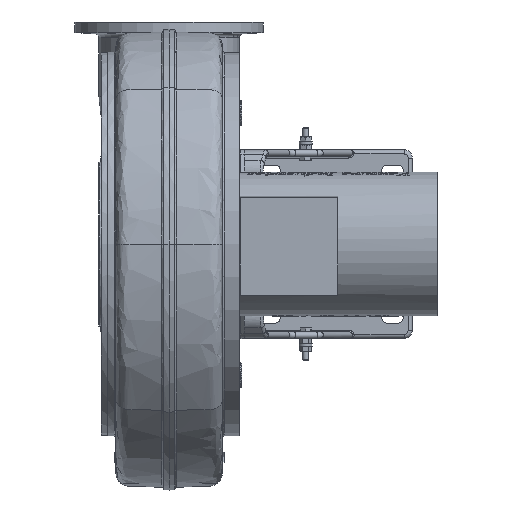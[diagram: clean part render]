
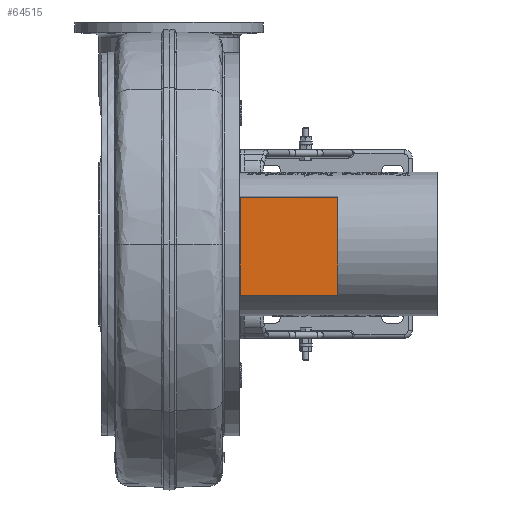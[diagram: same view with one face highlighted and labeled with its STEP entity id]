
A CAD part, front view. The second image highlights one B-rep face of the part: STEP entity #64515.
In plain terms, the highlighted planar face has unit normal (0, -1, -0.016).
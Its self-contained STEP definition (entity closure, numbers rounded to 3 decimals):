
#1501=PLANE('',#67557);
#4998=FACE_OUTER_BOUND('',#8508,.T.);
#8508=EDGE_LOOP('',(#47765,#47766,#47767,#47768));
#14633=LINE('',#106549,#21067);
#14636=LINE('',#106554,#21070);
#14637=LINE('',#106557,#21071);
#14639=LINE('',#106560,#21073);
#21067=VECTOR('',#73683,10.);
#21070=VECTOR('',#73688,10.);
#21071=VECTOR('',#73691,10.);
#21073=VECTOR('',#73695,10.);
#29475=VERTEX_POINT('',#106546);
#29476=VERTEX_POINT('',#106548);
#29477=VERTEX_POINT('',#106552);
#29478=VERTEX_POINT('',#106556);
#36293=EDGE_CURVE('',#29476,#29475,#14633,.T.);
#36296=EDGE_CURVE('',#29475,#29477,#14636,.T.);
#36297=EDGE_CURVE('',#29478,#29476,#14637,.T.);
#36299=EDGE_CURVE('',#29477,#29478,#14639,.T.);
#47765=ORIENTED_EDGE('',*,*,#36299,.T.);
#47766=ORIENTED_EDGE('',*,*,#36297,.T.);
#47767=ORIENTED_EDGE('',*,*,#36293,.T.);
#47768=ORIENTED_EDGE('',*,*,#36296,.T.);
#64515=ADVANCED_FACE('',(#4998),#1501,.T.);
#67557=AXIS2_PLACEMENT_3D('',#106561,#73696,#73697);
#73683=DIRECTION('',(-1.,0.,0.));
#73688=DIRECTION('',(0.,0.016,-1.));
#73691=DIRECTION('',(0.,-0.016,1.));
#73695=DIRECTION('',(1.,0.,0.));
#73696=DIRECTION('center_axis',(0.,-1.,
-0.016));
#73697=DIRECTION('ref_axis',(0.,0.016,-1.));
#106546=CARTESIAN_POINT('',(86.517,-174.933,56.678));
#106548=CARTESIAN_POINT('',(205.483,-174.933,56.679));
#106549=CARTESIAN_POINT('',(205.483,-174.933,56.679));
#106552=CARTESIAN_POINT('',(86.518,-173.022,-62.271));
#106554=CARTESIAN_POINT('',(86.517,-174.933,56.678));
#106556=CARTESIAN_POINT('',(205.483,-173.022,-62.271));
#106557=CARTESIAN_POINT('',(205.483,-173.022,-62.271));
#106560=CARTESIAN_POINT('',(86.518,-173.022,-62.271));
#106561=CARTESIAN_POINT('Origin',(146.,-173.978,-2.796));
